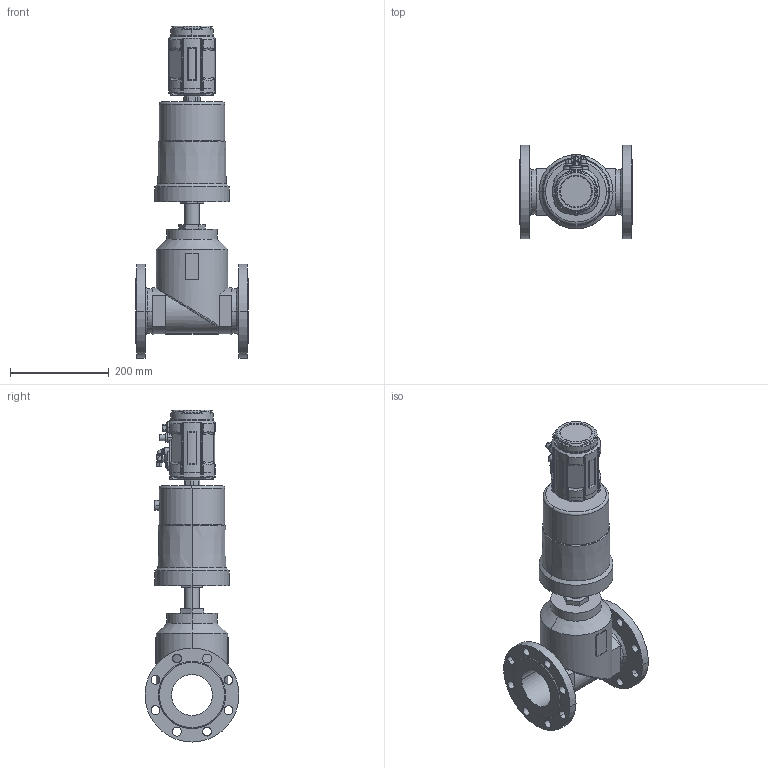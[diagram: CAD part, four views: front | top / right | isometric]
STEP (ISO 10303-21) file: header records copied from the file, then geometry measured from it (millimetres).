
FILE_DESCRIPTION((''),'2;1');
FILE_NAME('PV_F_EPP_P_2_ASM','2025-03-06T',('USER'),(''),'PRO/ENGINEER BY PARAMETRIC TECHNOLOGY CORPORATION, 2011220','PRO/ENGINEER BY PARAMETRIC TECHNOLOGY CORPORATION, 2011220','');
FILE_SCHEMA(('CONFIG_CONTROL_DESIGN'));
Length unit declared in the file: millimetre
Products named in the file (12): KLAPAN; PNEVMOPRIVOD; KOLCO_52_GOST13943; POZICIONER_VERX; POZICIONER_NIZ; SHLYAPKA_VINT; DET; DET_2; SHLYAPKA_VINT_2; DET_3; SB_POZICIONER_ASM; PV_F_EPP_P_2_ASM
Assembly tree (18 placements, depth 3):
  PV_F_EPP_P_2_ASM
    KLAPAN
    PNEVMOPRIVOD
    KOLCO_52_GOST13943
    SB_POZICIONER_ASM
      POZICIONER_VERX
      POZICIONER_NIZ
      SHLYAPKA_VINT  x4
      DET
      DET_2
      SHLYAPKA_VINT_2  x4
      DET_3  x2
Bounding box: 228 x 190 x 671.5 mm (x, y, z)
Volume: 7025458.3 mm3; surface area: 524804.2 mm2
Topology: 17 solids, 22 shells, 835 faces, 2098 edges, 1370 vertices
Faces by surface type: plane 392, cylinder 346, cone 49, torus 24, bspline 12, sphere 12
Entity records: 22546 total; most frequent: CARTESIAN_POINT 5384, DIRECTION 3617, ORIENTED_EDGE 3450, EDGE_CURVE 1735, AXIS2_PLACEMENT_3D 1372, VERTEX_POINT 1135, VECTOR 873, LINE 873
